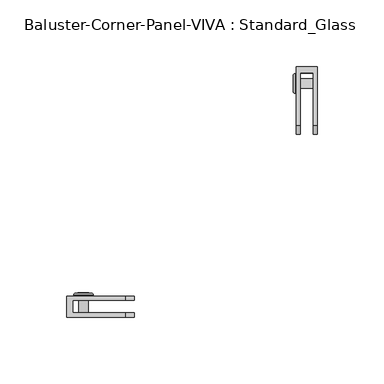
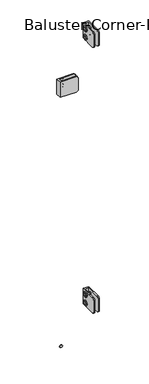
"""IFC4 building model written with IfcOpenShell, lengths in millimetres: railing geometry, Baluster-Corner-Panel-VIVA : Standard_Glass."""

from ifc_helpers import new_model, si_unit, point, frame, origin, place, context, project, spatial, polyline, circle_curve, ellipse_curve, trimmed, outline, extrude, source, transform, mapped, element, save
from ifc_brep_helpers import plane_surface, cylinder_surface, revolved_surface, advanced_brep


def baluster_corner_panel_viva_standard_glass_f68bcb80(model_context):
    return source(origin(), model_context, "Body", "SolidModel", [
        extrude(outline(polyline([(139.71018, 917.178125), (137.6632158, 913.6326791), (133.5692875, 913.6326791), (131.5223234, 917.178125), (133.5692875, 920.7235709), (137.6632158, 920.7235709), (139.71018, 917.178125)])), frame((21.7024185, 0.0, 0.0), z_axis=(1.0, 0.0, 0.0), x_axis=(0.0, 1.0, 0.0)), (0.0, 0.0, 1.0), 1.4969696),
        advanced_brep(
        [(36.7665, 139.1616976, 917.178125), (36.7665, 132.0708058, 917.178125), (24.0665, 132.0708058, 917.178125), (24.0665, 139.1616976, 917.178125), (24.0665, 128.2084626, 917.178125), (24.0665, 143.0240408, 917.178125), (23.199388, 137.2723271, 917.178125), (23.199388, 133.9601763, 917.178125), (36.7665, 133.9601763, 917.178125), (36.7665, 137.2723271, 917.178125), (23.2316551, 143.0240408, 917.178125), (23.2316551, 128.2084626, 917.178125), (21.9503831, 129.4897346, 917.178125), (21.9503831, 141.7427687, 917.178125), (21.9503831, 131.3176561, 917.178125), (21.9503831, 139.9148472, 917.178125), (23.199388, 131.3176561, 917.178125), (23.199388, 139.9148472, 917.178125)],
        [
            (0, 1, circle_curve(frame((36.7665, 135.6162517, 917.178125), z_axis=(-1.0, 0.0, 0.0), x_axis=(0.0, -1.0, 0.0)), 3.5454459)),
            (1, 2),
            (2, 3, circle_curve(frame((24.0665, 135.6162517, 917.178125), z_axis=(1.0, 0.0, 0.0), x_axis=(0.0, -1.0, 0.0)), 3.5454459)),
            (3, 0),
            (1, 0, circle_curve(frame((36.7665, 135.6162517, 917.178125), z_axis=(-1.0, 0.0, 0.0), x_axis=(0.0, -1.0, 0.0)), 3.5454459)),
            (3, 2, circle_curve(frame((24.0665, 135.6162517, 917.178125), z_axis=(1.0, 0.0, 0.0), x_axis=(0.0, -1.0, 0.0)), 3.5454459)),
            (2, 4),
            (4, 5, circle_curve(frame((24.0665, 135.6162517, 917.178125), z_axis=(1.0, 0.0, 0.0), x_axis=(0.0, -1.0, 0.0)), 7.4077891)),
            (5, 3),
            (5, 4, circle_curve(frame((24.0665, 135.6162517, 917.178125), z_axis=(1.0, 0.0, 0.0), x_axis=(0.0, -1.0, 0.0)), 7.4077891)),
            (6, 7, circle_curve(frame((23.199388, 135.6162517, 917.178125), z_axis=(-1.0, 0.0, 0.0), x_axis=(0.0, -1.0, 0.0)), 1.6560754)),
            (7, 8),
            (8, 9, circle_curve(frame((36.7665, 135.6162517, 917.178125), z_axis=(1.0, 0.0, 0.0), x_axis=(0.0, -1.0, 0.0)), 1.6560754)),
            (9, 6),
            (7, 6, circle_curve(frame((23.199388, 135.6162517, 917.178125), z_axis=(-1.0, 0.0, 0.0), x_axis=(0.0, -1.0, 0.0)), 1.6560754)),
            (9, 8, circle_curve(frame((36.7665, 135.6162517, 917.178125), z_axis=(1.0, 0.0, 0.0), x_axis=(0.0, -1.0, 0.0)), 1.6560754)),
            (10, 11, circle_curve(frame((23.2316551, 135.6162517, 917.178125), z_axis=(-1.0, 0.0, 0.0), x_axis=(0.0, -1.0, 0.0)), 7.4077891)),
            (11, 12, circle_curve(frame((23.2316551, 129.4897346, 917.178125), z_axis=(0.0, 0.0, -1.0), x_axis=(0.0, -1.0, 0.0)), 1.281272)),
            (12, 13, circle_curve(frame((21.9503831, 135.6162517, 917.178125), z_axis=(1.0, 0.0, 0.0), x_axis=(0.0, -1.0, 0.0)), 6.1265171)),
            (13, 10, circle_curve(frame((23.2316551, 141.7427687, 917.178125), z_axis=(0.0, 0.0, -1.0), x_axis=(0.0, 1.0, 0.0)), 1.281272)),
            (11, 10, circle_curve(frame((23.2316551, 135.6162517, 917.178125), z_axis=(-1.0, 0.0, 0.0), x_axis=(0.0, -1.0, 0.0)), 7.4077891)),
            (13, 12, circle_curve(frame((21.9503831, 135.6162517, 917.178125), z_axis=(1.0, 0.0, 0.0), x_axis=(0.0, -1.0, 0.0)), 6.1265171)),
            (12, 14),
            (14, 15, circle_curve(frame((21.9503831, 135.6162517, 917.178125), z_axis=(1.0, 0.0, 0.0), x_axis=(0.0, -1.0, 0.0)), 4.2985955)),
            (15, 13),
            (15, 14, circle_curve(frame((21.9503831, 135.6162517, 917.178125), z_axis=(1.0, 0.0, 0.0), x_axis=(0.0, -1.0, 0.0)), 4.2985955)),
            (4, 11),
            (10, 5),
            (8, 1),
            (0, 9),
            (14, 16),
            (16, 17, circle_curve(frame((23.199388, 135.6162517, 917.178125), z_axis=(1.0, 0.0, 0.0), x_axis=(0.0, -1.0, 0.0)), 4.2985955)),
            (17, 15),
            (17, 16, circle_curve(frame((23.199388, 135.6162517, 917.178125), z_axis=(1.0, 0.0, 0.0), x_axis=(0.0, -1.0, 0.0)), 4.2985955)),
            (16, 7),
            (6, 17),
        ],
        [
            cylinder_surface(frame((27.5632331, 135.6162517, 917.178125), z_axis=(1.0, 0.0, 0.0), x_axis=(0.0, -1.0, 0.0)), 3.5454459),
            plane_surface(frame((24.0665, 135.6162517, 917.178125), z_axis=(1.0, 0.0, 0.0), x_axis=(0.0, -1.0, 0.0))),
            revolved_surface(polyline([(36.7665, 133.9601763, 917.178125), (23.199388, 133.9601763, 917.178125)]), (27.5632331, 135.6162517, 917.178125), (1.0, 0.0, 0.0)),
            revolved_surface(trimmed(ellipse_curve(frame((23.2316551, 129.4897346, 917.178125), z_axis=(0.0, 0.0, 1.0), x_axis=(0.0, -1.0, 0.0)), 1.281272, 1.281272), [point((21.9503831, 129.4897346, 917.178125))], [point((23.2316551, 128.2084626, 917.178125))], True, "CARTESIAN"), (27.5632331, 135.6162517, 917.178125), (1.0, 0.0, 0.0)),
            plane_surface(frame((21.9503831, 135.6162517, 917.178125), z_axis=(-1.0, 0.0, 0.0), x_axis=(0.0, -1.0, 0.0))),
            cylinder_surface(frame((27.5632331, 135.6162517, 917.178125), z_axis=(1.0, 0.0, 0.0), x_axis=(0.0, -1.0, 0.0)), 7.4077891),
            plane_surface(frame((36.7665, 135.6162517, 917.178125), z_axis=(1.0, 0.0, 0.0), x_axis=(0.0, -1.0, 0.0))),
            revolved_surface(polyline([(23.199388, 131.3176562, 917.178125), (21.9503831, 131.3176562, 917.178125)]), (27.5632331, 135.6162517, 917.178125), (1.0, 0.0, 0.0)),
            plane_surface(frame((23.199388, 135.6162517, 917.178125), z_axis=(-1.0, 0.0, 0.0), x_axis=(0.0, -1.0, 0.0))),
        ],
        [
            (0, [[1, 2, 3, 4]]),
            (0, [[5, -4, 6, -2]]),
            (1, [[-3, 7, 8, 9]]),
            (1, [[-6, -9, 10, -7]]),
            (2, [[11, 12, 13, 14]]),
            (2, [[15, -14, 16, -12]]),
            (3, [[17, 18, 19, 20]]),
            (3, [[21, -20, 22, -18]]),
            (4, [[-19, 23, 24, 25]]),
            (4, [[-22, -25, 26, -23]]),
            (5, [[-8, 27, -17, 28]]),
            (5, [[-10, -28, -21, -27]]),
            (6, [[-13, 29, -1, 30]]),
            (6, [[-16, -30, -5, -29]]),
            (7, [[-24, 31, 32, 33]]),
            (7, [[-26, -33, 34, -31]]),
            (8, [[-32, 35, -11, 36]]),
            (8, [[-34, -36, -15, -35]]),
        ],
    ),
        advanced_brep(
        [(36.7665, 139.1616976, 892.571875), (36.7665, 132.0708058, 892.571875), (24.0665, 132.0708058, 892.571875), (24.0665, 139.1616976, 892.571875), (24.0665, 128.2084626, 892.571875), (24.0665, 143.0240408, 892.571875), (23.199388, 137.2723271, 892.571875), (23.199388, 133.9601763, 892.571875), (36.7665, 133.9601763, 892.571875), (36.7665, 137.2723271, 892.571875), (23.2316551, 143.0240408, 892.571875), (23.2316551, 128.2084626, 892.571875), (21.9503831, 129.4897346, 892.571875), (21.9503831, 141.7427687, 892.571875), (21.9503831, 131.3176561, 892.571875), (21.9503831, 139.9148472, 892.571875), (23.199388, 131.3176561, 892.571875), (23.199388, 139.9148472, 892.571875)],
        [
            (0, 1, circle_curve(frame((36.7665, 135.6162517, 892.571875), z_axis=(-1.0, 0.0, 0.0), x_axis=(0.0, -1.0, 0.0)), 3.5454459)),
            (1, 2),
            (2, 3, circle_curve(frame((24.0665, 135.6162517, 892.571875), z_axis=(1.0, 0.0, 0.0), x_axis=(0.0, -1.0, 0.0)), 3.5454459)),
            (3, 0),
            (1, 0, circle_curve(frame((36.7665, 135.6162517, 892.571875), z_axis=(-1.0, 0.0, 0.0), x_axis=(0.0, -1.0, 0.0)), 3.5454459)),
            (3, 2, circle_curve(frame((24.0665, 135.6162517, 892.571875), z_axis=(1.0, 0.0, 0.0), x_axis=(0.0, -1.0, 0.0)), 3.5454459)),
            (2, 4),
            (4, 5, circle_curve(frame((24.0665, 135.6162517, 892.571875), z_axis=(1.0, 0.0, 0.0), x_axis=(0.0, -1.0, 0.0)), 7.4077891)),
            (5, 3),
            (5, 4, circle_curve(frame((24.0665, 135.6162517, 892.571875), z_axis=(1.0, 0.0, 0.0), x_axis=(0.0, -1.0, 0.0)), 7.4077891)),
            (6, 7, circle_curve(frame((23.199388, 135.6162517, 892.571875), z_axis=(-1.0, 0.0, 0.0), x_axis=(0.0, -1.0, 0.0)), 1.6560754)),
            (7, 8),
            (8, 9, circle_curve(frame((36.7665, 135.6162517, 892.571875), z_axis=(1.0, 0.0, 0.0), x_axis=(0.0, -1.0, 0.0)), 1.6560754)),
            (9, 6),
            (7, 6, circle_curve(frame((23.199388, 135.6162517, 892.571875), z_axis=(-1.0, 0.0, 0.0), x_axis=(0.0, -1.0, 0.0)), 1.6560754)),
            (9, 8, circle_curve(frame((36.7665, 135.6162517, 892.571875), z_axis=(1.0, 0.0, 0.0), x_axis=(0.0, -1.0, 0.0)), 1.6560754)),
            (10, 11, circle_curve(frame((23.2316551, 135.6162517, 892.571875), z_axis=(-1.0, 0.0, 0.0), x_axis=(0.0, -1.0, 0.0)), 7.4077891)),
            (11, 12, circle_curve(frame((23.2316551, 129.4897346, 892.571875), z_axis=(0.0, 0.0, -1.0), x_axis=(0.0, -1.0, 0.0)), 1.281272)),
            (12, 13, circle_curve(frame((21.9503831, 135.6162517, 892.571875), z_axis=(1.0, 0.0, 0.0), x_axis=(0.0, -1.0, 0.0)), 6.1265171)),
            (13, 10, circle_curve(frame((23.2316551, 141.7427687, 892.571875), z_axis=(0.0, 0.0, -1.0), x_axis=(0.0, 1.0, 0.0)), 1.281272)),
            (11, 10, circle_curve(frame((23.2316551, 135.6162517, 892.571875), z_axis=(-1.0, 0.0, 0.0), x_axis=(0.0, -1.0, 0.0)), 7.4077891)),
            (13, 12, circle_curve(frame((21.9503831, 135.6162517, 892.571875), z_axis=(1.0, 0.0, 0.0), x_axis=(0.0, -1.0, 0.0)), 6.1265171)),
            (12, 14),
            (14, 15, circle_curve(frame((21.9503831, 135.6162517, 892.571875), z_axis=(1.0, 0.0, 0.0), x_axis=(0.0, -1.0, 0.0)), 4.2985955)),
            (15, 13),
            (15, 14, circle_curve(frame((21.9503831, 135.6162517, 892.571875), z_axis=(1.0, 0.0, 0.0), x_axis=(0.0, -1.0, 0.0)), 4.2985955)),
            (8, 1),
            (0, 9),
            (4, 11),
            (10, 5),
            (14, 16),
            (16, 17, circle_curve(frame((23.199388, 135.6162517, 892.571875), z_axis=(1.0, 0.0, 0.0), x_axis=(0.0, -1.0, 0.0)), 4.2985955)),
            (17, 15),
            (17, 16, circle_curve(frame((23.199388, 135.6162517, 892.571875), z_axis=(1.0, 0.0, 0.0), x_axis=(0.0, -1.0, 0.0)), 4.2985955)),
            (16, 7),
            (6, 17),
        ],
        [
            cylinder_surface(frame((27.5632331, 135.6162517, 892.571875), z_axis=(1.0, 0.0, 0.0), x_axis=(0.0, -1.0, 0.0)), 3.5454459),
            plane_surface(frame((24.0665, 135.6162517, 892.571875), z_axis=(1.0, 0.0, 0.0), x_axis=(0.0, -1.0, 0.0))),
            revolved_surface(polyline([(36.7665, 133.9601763, 892.571875), (23.199388, 133.9601763, 892.571875)]), (27.5632331, 135.6162517, 892.571875), (1.0, 0.0, 0.0)),
            revolved_surface(trimmed(ellipse_curve(frame((23.2316551, 129.4897346, 892.571875), z_axis=(0.0, 0.0, 1.0), x_axis=(0.0, -1.0, 0.0)), 1.281272, 1.281272), [point((21.9503831, 129.4897346, 892.571875))], [point((23.2316551, 128.2084626, 892.571875))], True, "CARTESIAN"), (27.5632331, 135.6162517, 892.571875), (1.0, 0.0, 0.0)),
            plane_surface(frame((21.9503831, 135.6162517, 892.571875), z_axis=(-1.0, 0.0, 0.0), x_axis=(0.0, -1.0, 0.0))),
            plane_surface(frame((36.7665, 135.6162517, 892.571875), z_axis=(1.0, 0.0, 0.0), x_axis=(0.0, -1.0, 0.0))),
            cylinder_surface(frame((27.5632331, 135.6162517, 892.571875), z_axis=(1.0, 0.0, 0.0), x_axis=(0.0, -1.0, 0.0)), 7.4077891),
            revolved_surface(polyline([(23.199388, 131.3176562, 892.571875), (21.9503831, 131.3176562, 892.571875)]), (27.5632331, 135.6162517, 892.571875), (1.0, 0.0, 0.0)),
            plane_surface(frame((23.199388, 135.6162517, 892.571875), z_axis=(-1.0, 0.0, 0.0), x_axis=(0.0, -1.0, 0.0))),
        ],
        [
            (0, [[1, 2, 3, 4]]),
            (0, [[5, -4, 6, -2]]),
            (1, [[-3, 7, 8, 9]]),
            (1, [[-6, -9, 10, -7]]),
            (2, [[11, 12, 13, 14]]),
            (2, [[15, -14, 16, -12]]),
            (3, [[17, 18, 19, 20]]),
            (3, [[21, -20, 22, -18]]),
            (4, [[-19, 23, 24, 25]]),
            (4, [[-22, -25, 26, -23]]),
            (5, [[-13, 27, -1, 28]]),
            (5, [[-16, -28, -5, -27]]),
            (6, [[-8, 29, -17, 30]]),
            (6, [[-10, -30, -21, -29]]),
            (7, [[-24, 31, 32, 33]]),
            (7, [[-26, -33, 34, -31]]),
            (8, [[-32, 35, -11, 36]]),
            (8, [[-34, -36, -15, -35]]),
        ],
    ),
        extrude(outline(polyline([(139.71018, 892.571875), (137.6632158, 889.0264291), (133.5692875, 889.0264291), (131.5223234, 892.571875), (133.5692875, 896.1173209), (137.6632158, 896.1173209), (139.71018, 892.571875)])), frame((21.7024185, 0.0, 0.0), z_axis=(1.0, 0.0, 0.0), x_axis=(0.0, 1.0, 0.0)), (0.0, 0.0, 1.0), 1.4969696),
        advanced_brep(
        [(24.0665, 148.2495965, 927.1), (24.0665, 148.2495965, 882.65), (24.0665, 103.7995965, 882.65), (24.0665, 97.4495965, 889.0), (24.0665, 97.4495965, 920.75), (24.0665, 103.7995965, 927.1), (39.9415, 148.2495965, 927.1), (39.9415, 103.7995965, 927.1), (39.9415, 97.4495965, 920.75), (39.9415, 97.4495965, 889.0), (39.9415, 103.7995965, 882.65), (39.9415, 148.2495965, 882.65), (36.7665, 103.7995965, 882.65), (36.7665, 143.5315161, 882.65), (27.2415, 143.5315161, 882.65), (27.2415, 103.7995965, 882.65), (36.7665, 143.5315161, 927.1), (27.2415, 143.5315161, 927.1), (27.2415, 103.7995965, 927.1), (27.2415, 97.4495965, 920.75), (27.2415, 97.4495965, 889.0), (36.7665, 97.4495965, 889.0), (36.7665, 97.4495965, 920.75), (36.7665, 103.7995965, 927.1)],
        [
            (0, 1),
            (1, 2),
            (2, 3, circle_curve(frame((24.0665, 103.7995965, 889.0), z_axis=(-1.0, 0.0, 0.0), x_axis=(0.0, -1.0, 0.0)), 6.35)),
            (3, 4),
            (4, 5, circle_curve(frame((24.0665, 103.7995965, 920.75), z_axis=(-1.0, 0.0, 0.0), x_axis=(0.0, -1.0, 0.0)), 6.35)),
            (5, 0),
            (6, 7),
            (7, 8, circle_curve(frame((39.9415, 103.7995965, 920.75), z_axis=(1.0, 0.0, 0.0), x_axis=(0.0, -1.0, 0.0)), 6.35)),
            (8, 9),
            (9, 10, circle_curve(frame((39.9415, 103.7995965, 889.0), z_axis=(1.0, 0.0, 0.0), x_axis=(0.0, -1.0, 0.0)), 6.35)),
            (10, 11),
            (11, 6),
            (0, 6),
            (11, 1),
            (10, 12),
            (12, 13),
            (13, 14),
            (14, 15),
            (15, 2),
            (13, 16),
            (16, 17),
            (17, 14),
            (17, 18),
            (18, 19, circle_curve(frame((27.2415, 103.7995965, 920.75), z_axis=(1.0, 0.0, 0.0), x_axis=(0.0, -1.0, 0.0)), 6.35)),
            (19, 20),
            (20, 15, circle_curve(frame((27.2415, 103.7995965, 889.0), z_axis=(1.0, 0.0, 0.0), x_axis=(0.0, -1.0, 0.0)), 6.35)),
            (12, 21, circle_curve(frame((36.7665, 103.7995965, 889.0), z_axis=(-1.0, 0.0, 0.0), x_axis=(0.0, -1.0, 0.0)), 6.35)),
            (21, 22),
            (22, 23, circle_curve(frame((36.7665, 103.7995965, 920.75), z_axis=(-1.0, 0.0, 0.0), x_axis=(0.0, -1.0, 0.0)), 6.35)),
            (23, 16),
            (20, 3),
            (9, 21),
            (19, 4),
            (8, 22),
            (18, 5),
            (7, 23),
        ],
        [
            plane_surface(frame((24.0665, 148.2495965, 882.65), z_axis=(-1.0, 0.0, 0.0), x_axis=(0.0, 0.0, -1.0))),
            plane_surface(frame((39.9415, 148.2495965, 882.65), z_axis=(1.0, 0.0, 0.0), x_axis=(0.0, 0.0, 1.0))),
            plane_surface(frame((24.0665, 148.2495965, 927.1), z_axis=(0.0, 1.0, 0.0), x_axis=(1.0, 0.0, 0.0))),
            plane_surface(frame((24.0665, 148.2495965, 882.65), z_axis=(0.0, 0.0, -1.0), x_axis=(1.0, 0.0, 0.0))),
            plane_surface(frame((36.7665, 143.5315161, 939.8), z_axis=(0.0, -1.0, 0.0), x_axis=(0.0, 0.0, -1.0))),
            plane_surface(frame((27.2415, 143.5315161, 939.8), z_axis=(1.0, 0.0, 0.0), x_axis=(0.0, 0.0, -1.0))),
            plane_surface(frame((36.7665, 84.7495965, 939.8), z_axis=(-1.0, 0.0, 0.0), x_axis=(0.0, 0.0, -1.0))),
            cylinder_surface(frame((39.9415, 103.7995965, 889.0), z_axis=(-1.0, 0.0, 0.0), x_axis=(0.0, -1.0, 0.0)), 6.35),
            plane_surface(frame((24.0665, 97.4495965, 889.0), z_axis=(0.0, -1.0, 0.0), x_axis=(1.0, 0.0, 0.0))),
            cylinder_surface(frame((39.9415, 103.7995965, 920.75), z_axis=(-1.0, 0.0, 0.0), x_axis=(0.0, -1.0, 0.0)), 6.35),
            plane_surface(frame((24.0665, 103.7995965, 927.1), z_axis=(0.0, 0.0, 1.0), x_axis=(1.0, 0.0, 0.0))),
        ],
        [
            (0, [[1, 2, 3, 4, 5, 6]]),
            (1, [[7, 8, 9, 10, 11, 12]]),
            (2, [[-1, 13, -12, 14]]),
            (3, [[-2, -14, -11, 15, 16, 17, 18, 19]]),
            (4, [[20, 21, 22, -17]]),
            (5, [[-22, 23, 24, 25, 26, -18]]),
            (6, [[-20, -16, 27, 28, 29, 30]]),
            (7, [[-3, -19, -26, 31]]),
            (7, [[-10, 32, -27, -15]]),
            (8, [[-4, -31, -25, 33]]),
            (8, [[-9, 34, -28, -32]]),
            (9, [[-5, -33, -24, 35]]),
            (9, [[-8, 36, -29, -34]]),
            (10, [[-6, -35, -23, -21, -30, -36, -7, -13]]),
        ],
    ),
        extrude(outline(polyline([(139.71018, 138.7358896), (137.6632158, 135.1904437), (133.5692875, 135.1904437), (131.5223234, 138.7358896), (133.5692875, 142.2813355), (137.6632158, 142.2813355), (139.71018, 138.7358896)])), frame((21.7024185, 0.0, 0.0), z_axis=(1.0, 0.0, 0.0), x_axis=(0.0, 1.0, 0.0)), (0.0, 0.0, 1.0), 1.4969696),
        advanced_brep(
        [(36.7665, 139.1616976, 138.7358896), (36.7665, 132.0708058, 138.7358896), (24.0665, 132.0708058, 138.7358896), (24.0665, 139.1616976, 138.7358896), (24.0665, 128.2084626, 138.7358896), (24.0665, 143.0240408, 138.7358896), (23.199388, 137.2723271, 138.7358896), (23.199388, 133.9601763, 138.7358896), (36.7665, 133.9601763, 138.7358896), (36.7665, 137.2723271, 138.7358896), (23.2316551, 143.0240408, 138.7358896), (23.2316551, 128.2084626, 138.7358896), (21.9503831, 129.4897346, 138.7358896), (21.9503831, 141.7427687, 138.7358896), (21.9503831, 131.3176561, 138.7358896), (21.9503831, 139.9148472, 138.7358896), (23.199388, 131.3176561, 138.7358896), (23.199388, 139.9148472, 138.7358896)],
        [
            (0, 1, circle_curve(frame((36.7665, 135.6162517, 138.7358896), z_axis=(-1.0, 0.0, 0.0), x_axis=(0.0, -1.0, 0.0)), 3.5454459)),
            (1, 2),
            (2, 3, circle_curve(frame((24.0665, 135.6162517, 138.7358896), z_axis=(1.0, 0.0, 0.0), x_axis=(0.0, -1.0, 0.0)), 3.5454459)),
            (3, 0),
            (1, 0, circle_curve(frame((36.7665, 135.6162517, 138.7358896), z_axis=(-1.0, 0.0, 0.0), x_axis=(0.0, -1.0, 0.0)), 3.5454459)),
            (3, 2, circle_curve(frame((24.0665, 135.6162517, 138.7358896), z_axis=(1.0, 0.0, 0.0), x_axis=(0.0, -1.0, 0.0)), 3.5454459)),
            (2, 4),
            (4, 5, circle_curve(frame((24.0665, 135.6162517, 138.7358896), z_axis=(1.0, 0.0, 0.0), x_axis=(0.0, -1.0, 0.0)), 7.4077891)),
            (5, 3),
            (5, 4, circle_curve(frame((24.0665, 135.6162517, 138.7358896), z_axis=(1.0, 0.0, 0.0), x_axis=(0.0, -1.0, 0.0)), 7.4077891)),
            (6, 7, circle_curve(frame((23.199388, 135.6162517, 138.7358896), z_axis=(-1.0, 0.0, 0.0), x_axis=(0.0, -1.0, 0.0)), 1.6560754)),
            (7, 8),
            (8, 9, circle_curve(frame((36.7665, 135.6162517, 138.7358896), z_axis=(1.0, 0.0, 0.0), x_axis=(0.0, -1.0, 0.0)), 1.6560754)),
            (9, 6),
            (7, 6, circle_curve(frame((23.199388, 135.6162517, 138.7358896), z_axis=(-1.0, 0.0, 0.0), x_axis=(0.0, -1.0, 0.0)), 1.6560754)),
            (9, 8, circle_curve(frame((36.7665, 135.6162517, 138.7358896), z_axis=(1.0, 0.0, 0.0), x_axis=(0.0, -1.0, 0.0)), 1.6560754)),
            (10, 11, circle_curve(frame((23.2316551, 135.6162517, 138.7358896), z_axis=(-1.0, 0.0, 0.0), x_axis=(0.0, -1.0, 0.0)), 7.4077891)),
            (11, 12, circle_curve(frame((23.2316551, 129.4897346, 138.7358896), z_axis=(0.0, 0.0, -1.0), x_axis=(0.0, -1.0, 0.0)), 1.281272)),
            (12, 13, circle_curve(frame((21.9503831, 135.6162517, 138.7358896), z_axis=(1.0, 0.0, 0.0), x_axis=(0.0, -1.0, 0.0)), 6.1265171)),
            (13, 10, circle_curve(frame((23.2316551, 141.7427687, 138.7358896), z_axis=(0.0, 0.0, -1.0), x_axis=(0.0, 1.0, 0.0)), 1.281272)),
            (11, 10, circle_curve(frame((23.2316551, 135.6162517, 138.7358896), z_axis=(-1.0, 0.0, 0.0), x_axis=(0.0, -1.0, 0.0)), 7.4077891)),
            (13, 12, circle_curve(frame((21.9503831, 135.6162517, 138.7358896), z_axis=(1.0, 0.0, 0.0), x_axis=(0.0, -1.0, 0.0)), 6.1265171)),
            (12, 14),
            (14, 15, circle_curve(frame((21.9503831, 135.6162517, 138.7358896), z_axis=(1.0, 0.0, 0.0), x_axis=(0.0, -1.0, 0.0)), 4.2985955)),
            (15, 13),
            (15, 14, circle_curve(frame((21.9503831, 135.6162517, 138.7358896), z_axis=(1.0, 0.0, 0.0), x_axis=(0.0, -1.0, 0.0)), 4.2985955)),
            (4, 11),
            (10, 5),
            (8, 1),
            (0, 9),
            (14, 16),
            (16, 17, circle_curve(frame((23.199388, 135.6162517, 138.7358896), z_axis=(1.0, 0.0, 0.0), x_axis=(0.0, -1.0, 0.0)), 4.2985955)),
            (17, 15),
            (17, 16, circle_curve(frame((23.199388, 135.6162517, 138.7358896), z_axis=(1.0, 0.0, 0.0), x_axis=(0.0, -1.0, 0.0)), 4.2985955)),
            (16, 7),
            (6, 17),
        ],
        [
            cylinder_surface(frame((27.5632331, 135.6162517, 138.7358896), z_axis=(1.0, 0.0, 0.0), x_axis=(0.0, -1.0, 0.0)), 3.5454459),
            plane_surface(frame((24.0665, 135.6162517, 138.7358896), z_axis=(1.0, 0.0, 0.0), x_axis=(0.0, -1.0, 0.0))),
            revolved_surface(polyline([(36.7665, 133.9601763, 138.7358896), (23.199388, 133.9601763, 138.7358896)]), (27.5632331, 135.6162517, 138.7358896), (1.0, 0.0, 0.0)),
            revolved_surface(trimmed(ellipse_curve(frame((23.2316551, 129.4897346, 138.7358896), z_axis=(0.0, 0.0, 1.0), x_axis=(0.0, -1.0, 0.0)), 1.281272, 1.281272), [point((21.9503831, 129.4897346, 138.7358896))], [point((23.2316551, 128.2084626, 138.7358896))], True, "CARTESIAN"), (27.5632331, 135.6162517, 138.7358896), (1.0, 0.0, 0.0)),
            plane_surface(frame((21.9503831, 135.6162517, 138.7358896), z_axis=(-1.0, 0.0, 0.0), x_axis=(0.0, -1.0, 0.0))),
            cylinder_surface(frame((27.5632331, 135.6162517, 138.7358896), z_axis=(1.0, 0.0, 0.0), x_axis=(0.0, -1.0, 0.0)), 7.4077891),
            plane_surface(frame((36.7665, 135.6162517, 138.7358896), z_axis=(1.0, 0.0, 0.0), x_axis=(0.0, -1.0, 0.0))),
            revolved_surface(polyline([(23.199388, 131.3176562, 138.7358896), (21.9503831, 131.3176562, 138.7358896)]), (27.5632331, 135.6162517, 138.7358896), (1.0, 0.0, 0.0)),
            plane_surface(frame((23.199388, 135.6162517, 138.7358896), z_axis=(-1.0, 0.0, 0.0), x_axis=(0.0, -1.0, 0.0))),
        ],
        [
            (0, [[1, 2, 3, 4]]),
            (0, [[5, -4, 6, -2]]),
            (1, [[-3, 7, 8, 9]]),
            (1, [[-6, -9, 10, -7]]),
            (2, [[11, 12, 13, 14]]),
            (2, [[15, -14, 16, -12]]),
            (3, [[17, 18, 19, 20]]),
            (3, [[21, -20, 22, -18]]),
            (4, [[-19, 23, 24, 25]]),
            (4, [[-22, -25, 26, -23]]),
            (5, [[-8, 27, -17, 28]]),
            (5, [[-10, -28, -21, -27]]),
            (6, [[-13, 29, -1, 30]]),
            (6, [[-16, -30, -5, -29]]),
            (7, [[-24, 31, 32, 33]]),
            (7, [[-26, -33, 34, -31]]),
            (8, [[-32, 35, -11, 36]]),
            (8, [[-34, -36, -15, -35]]),
        ],
    ),
        advanced_brep(
        [(36.7665, 139.1616976, 114.1296396), (36.7665, 132.0708058, 114.1296396), (24.0665, 132.0708058, 114.1296396), (24.0665, 139.1616976, 114.1296396), (24.0665, 128.2084626, 114.1296396), (24.0665, 143.0240408, 114.1296396), (23.199388, 137.2723271, 114.1296396), (23.199388, 133.9601763, 114.1296396), (36.7665, 133.9601763, 114.1296396), (36.7665, 137.2723271, 114.1296396), (23.2316551, 143.0240408, 114.1296396), (23.2316551, 128.2084626, 114.1296396), (21.9503831, 129.4897346, 114.1296396), (21.9503831, 141.7427687, 114.1296396), (21.9503831, 131.3176561, 114.1296396), (21.9503831, 139.9148472, 114.1296396), (23.199388, 131.3176561, 114.1296396), (23.199388, 139.9148472, 114.1296396)],
        [
            (0, 1, circle_curve(frame((36.7665, 135.6162517, 114.1296396), z_axis=(-1.0, 0.0, 0.0), x_axis=(0.0, -1.0, 0.0)), 3.5454459)),
            (1, 2),
            (2, 3, circle_curve(frame((24.0665, 135.6162517, 114.1296396), z_axis=(1.0, 0.0, 0.0), x_axis=(0.0, -1.0, 0.0)), 3.5454459)),
            (3, 0),
            (1, 0, circle_curve(frame((36.7665, 135.6162517, 114.1296396), z_axis=(-1.0, 0.0, 0.0), x_axis=(0.0, -1.0, 0.0)), 3.5454459)),
            (3, 2, circle_curve(frame((24.0665, 135.6162517, 114.1296396), z_axis=(1.0, 0.0, 0.0), x_axis=(0.0, -1.0, 0.0)), 3.5454459)),
            (2, 4),
            (4, 5, circle_curve(frame((24.0665, 135.6162517, 114.1296396), z_axis=(1.0, 0.0, 0.0), x_axis=(0.0, -1.0, 0.0)), 7.4077891)),
            (5, 3),
            (5, 4, circle_curve(frame((24.0665, 135.6162517, 114.1296396), z_axis=(1.0, 0.0, 0.0), x_axis=(0.0, -1.0, 0.0)), 7.4077891)),
            (6, 7, circle_curve(frame((23.199388, 135.6162517, 114.1296396), z_axis=(-1.0, 0.0, 0.0), x_axis=(0.0, -1.0, 0.0)), 1.6560754)),
            (7, 8),
            (8, 9, circle_curve(frame((36.7665, 135.6162517, 114.1296396), z_axis=(1.0, 0.0, 0.0), x_axis=(0.0, -1.0, 0.0)), 1.6560754)),
            (9, 6),
            (7, 6, circle_curve(frame((23.199388, 135.6162517, 114.1296396), z_axis=(-1.0, 0.0, 0.0), x_axis=(0.0, -1.0, 0.0)), 1.6560754)),
            (9, 8, circle_curve(frame((36.7665, 135.6162517, 114.1296396), z_axis=(1.0, 0.0, 0.0), x_axis=(0.0, -1.0, 0.0)), 1.6560754)),
            (10, 11, circle_curve(frame((23.2316551, 135.6162517, 114.1296396), z_axis=(-1.0, 0.0, 0.0), x_axis=(0.0, -1.0, 0.0)), 7.4077891)),
            (11, 12, circle_curve(frame((23.2316551, 129.4897346, 114.1296396), z_axis=(0.0, 0.0, -1.0), x_axis=(0.0, -1.0, 0.0)), 1.281272)),
            (12, 13, circle_curve(frame((21.9503831, 135.6162517, 114.1296396), z_axis=(1.0, 0.0, 0.0), x_axis=(0.0, -1.0, 0.0)), 6.1265171)),
            (13, 10, circle_curve(frame((23.2316551, 141.7427687, 114.1296396), z_axis=(0.0, 0.0, -1.0), x_axis=(0.0, 1.0, 0.0)), 1.281272)),
            (11, 10, circle_curve(frame((23.2316551, 135.6162517, 114.1296396), z_axis=(-1.0, 0.0, 0.0), x_axis=(0.0, -1.0, 0.0)), 7.4077891)),
            (13, 12, circle_curve(frame((21.9503831, 135.6162517, 114.1296396), z_axis=(1.0, 0.0, 0.0), x_axis=(0.0, -1.0, 0.0)), 6.1265171)),
            (12, 14),
            (14, 15, circle_curve(frame((21.9503831, 135.6162517, 114.1296396), z_axis=(1.0, 0.0, 0.0), x_axis=(0.0, -1.0, 0.0)), 4.2985955)),
            (15, 13),
            (15, 14, circle_curve(frame((21.9503831, 135.6162517, 114.1296396), z_axis=(1.0, 0.0, 0.0), x_axis=(0.0, -1.0, 0.0)), 4.2985955)),
            (8, 1),
            (0, 9),
            (4, 11),
            (10, 5),
            (14, 16),
            (16, 17, circle_curve(frame((23.199388, 135.6162517, 114.1296396), z_axis=(1.0, 0.0, 0.0), x_axis=(0.0, -1.0, 0.0)), 4.2985955)),
            (17, 15),
            (17, 16, circle_curve(frame((23.199388, 135.6162517, 114.1296396), z_axis=(1.0, 0.0, 0.0), x_axis=(0.0, -1.0, 0.0)), 4.2985955)),
            (16, 7),
            (6, 17),
        ],
        [
            cylinder_surface(frame((27.5632331, 135.6162517, 114.1296396), z_axis=(1.0, 0.0, 0.0), x_axis=(0.0, -1.0, 0.0)), 3.5454459),
            plane_surface(frame((24.0665, 135.6162517, 114.1296396), z_axis=(1.0, 0.0, 0.0), x_axis=(0.0, -1.0, 0.0))),
            revolved_surface(polyline([(36.7665, 133.9601763, 114.1296396), (23.199388, 133.9601763, 114.1296396)]), (27.5632331, 135.6162517, 114.1296396), (1.0, 0.0, 0.0)),
            revolved_surface(trimmed(ellipse_curve(frame((23.2316551, 129.4897346, 114.1296396), z_axis=(0.0, 0.0, 1.0), x_axis=(0.0, -1.0, 0.0)), 1.281272, 1.281272), [point((21.9503831, 129.4897346, 114.1296396))], [point((23.2316551, 128.2084626, 114.1296396))], True, "CARTESIAN"), (27.5632331, 135.6162517, 114.1296396), (1.0, 0.0, 0.0)),
            plane_surface(frame((21.9503831, 135.6162517, 114.1296396), z_axis=(-1.0, 0.0, 0.0), x_axis=(0.0, -1.0, 0.0))),
            plane_surface(frame((36.7665, 135.6162517, 114.1296396), z_axis=(1.0, 0.0, 0.0), x_axis=(0.0, -1.0, 0.0))),
            cylinder_surface(frame((27.5632331, 135.6162517, 114.1296396), z_axis=(1.0, 0.0, 0.0), x_axis=(0.0, -1.0, 0.0)), 7.4077891),
            revolved_surface(polyline([(23.199388, 131.3176562, 114.1296396), (21.9503831, 131.3176562, 114.1296396)]), (27.5632331, 135.6162517, 114.1296396), (1.0, 0.0, 0.0)),
            plane_surface(frame((23.199388, 135.6162517, 114.1296396), z_axis=(-1.0, 0.0, 0.0), x_axis=(0.0, -1.0, 0.0))),
        ],
        [
            (0, [[1, 2, 3, 4]]),
            (0, [[5, -4, 6, -2]]),
            (1, [[-3, 7, 8, 9]]),
            (1, [[-6, -9, 10, -7]]),
            (2, [[11, 12, 13, 14]]),
            (2, [[15, -14, 16, -12]]),
            (3, [[17, 18, 19, 20]]),
            (3, [[21, -20, 22, -18]]),
            (4, [[-19, 23, 24, 25]]),
            (4, [[-22, -25, 26, -23]]),
            (5, [[-13, 27, -1, 28]]),
            (5, [[-16, -28, -5, -27]]),
            (6, [[-8, 29, -17, 30]]),
            (6, [[-10, -30, -21, -29]]),
            (7, [[-24, 31, 32, 33]]),
            (7, [[-26, -33, 34, -31]]),
            (8, [[-32, 35, -11, 36]]),
            (8, [[-34, -36, -15, -35]]),
        ],
    ),
        extrude(outline(polyline([(139.71018, 114.1296396), (137.6632158, 110.5841937), (133.5692875, 110.5841937), (131.5223234, 114.1296396), (133.5692875, 117.6750855), (137.6632158, 117.6750855), (139.71018, 114.1296396)])), frame((21.7024185, 0.0, 0.0), z_axis=(1.0, 0.0, 0.0), x_axis=(0.0, 1.0, 0.0)), (0.0, 0.0, 1.0), 1.4969696),
        advanced_brep(
        [(24.0665, 148.2495965, 148.6577646), (24.0665, 148.2495965, 104.2077646), (24.0665, 103.7995965, 104.2077646), (24.0665, 97.4495965, 110.5577646), (24.0665, 97.4495965, 142.3077646), (24.0665, 103.7995965, 148.6577646), (39.9415, 148.2495965, 148.6577646), (39.9415, 103.7995965, 148.6577646), (39.9415, 97.4495965, 142.3077646), (39.9415, 97.4495965, 110.5577646), (39.9415, 103.7995965, 104.2077646), (39.9415, 148.2495965, 104.2077646), (36.7665, 103.7995965, 104.2077646), (36.7665, 143.5315161, 104.2077646), (27.2415, 143.5315161, 104.2077646), (27.2415, 103.7995965, 104.2077646), (36.7665, 143.5315161, 148.6577646), (27.2415, 143.5315161, 148.6577646), (27.2415, 103.7995965, 148.6577646), (27.2415, 97.4495965, 142.3077646), (27.2415, 97.4495965, 110.5577646), (36.7665, 97.4495965, 110.5577646), (36.7665, 97.4495965, 142.3077646), (36.7665, 103.7995965, 148.6577646)],
        [
            (0, 1),
            (1, 2),
            (2, 3, circle_curve(frame((24.0665, 103.7995965, 110.5577646), z_axis=(-1.0, 0.0, 0.0), x_axis=(0.0, -1.0, 0.0)), 6.35)),
            (3, 4),
            (4, 5, circle_curve(frame((24.0665, 103.7995965, 142.3077646), z_axis=(-1.0, 0.0, 0.0), x_axis=(0.0, -1.0, 0.0)), 6.35)),
            (5, 0),
            (6, 7),
            (7, 8, circle_curve(frame((39.9415, 103.7995965, 142.3077646), z_axis=(1.0, 0.0, 0.0), x_axis=(0.0, -1.0, 0.0)), 6.35)),
            (8, 9),
            (9, 10, circle_curve(frame((39.9415, 103.7995965, 110.5577646), z_axis=(1.0, 0.0, 0.0), x_axis=(0.0, -1.0, 0.0)), 6.35)),
            (10, 11),
            (11, 6),
            (0, 6),
            (11, 1),
            (10, 12),
            (12, 13),
            (13, 14),
            (14, 15),
            (15, 2),
            (13, 16),
            (16, 17),
            (17, 14),
            (17, 18),
            (18, 19, circle_curve(frame((27.2415, 103.7995965, 142.3077646), z_axis=(1.0, 0.0, 0.0), x_axis=(0.0, -1.0, 0.0)), 6.35)),
            (19, 20),
            (20, 15, circle_curve(frame((27.2415, 103.7995965, 110.5577646), z_axis=(1.0, 0.0, 0.0), x_axis=(0.0, -1.0, 0.0)), 6.35)),
            (12, 21, circle_curve(frame((36.7665, 103.7995965, 110.5577646), z_axis=(-1.0, 0.0, 0.0), x_axis=(0.0, -1.0, 0.0)), 6.35)),
            (21, 22),
            (22, 23, circle_curve(frame((36.7665, 103.7995965, 142.3077646), z_axis=(-1.0, 0.0, 0.0), x_axis=(0.0, -1.0, 0.0)), 6.35)),
            (23, 16),
            (20, 3),
            (9, 21),
            (19, 4),
            (8, 22),
            (18, 5),
            (7, 23),
        ],
        [
            plane_surface(frame((24.0665, 148.2495965, 104.2077646), z_axis=(-1.0, 0.0, 0.0), x_axis=(0.0, 0.0, -1.0))),
            plane_surface(frame((39.9415, 148.2495965, 104.2077646), z_axis=(1.0, 0.0, 0.0), x_axis=(0.0, 0.0, 1.0))),
            plane_surface(frame((24.0665, 148.2495965, 148.6577646), z_axis=(0.0, 1.0, 0.0), x_axis=(1.0, 0.0, 0.0))),
            plane_surface(frame((24.0665, 148.2495965, 104.2077646), z_axis=(0.0, 0.0, -1.0), x_axis=(1.0, 0.0, 0.0))),
            plane_surface(frame((36.7665, 143.5315161, 161.3577646), z_axis=(0.0, -1.0, 0.0), x_axis=(0.0, 0.0, -1.0))),
            plane_surface(frame((27.2415, 143.5315161, 161.3577646), z_axis=(1.0, 0.0, 0.0), x_axis=(0.0, 0.0, -1.0))),
            plane_surface(frame((36.7665, 84.7495965, 161.3577646), z_axis=(-1.0, 0.0, 0.0), x_axis=(0.0, 0.0, -1.0))),
            cylinder_surface(frame((39.9415, 103.7995965, 110.5577646), z_axis=(-1.0, 0.0, 0.0), x_axis=(0.0, -1.0, 0.0)), 6.35),
            plane_surface(frame((24.0665, 97.4495965, 110.5577646), z_axis=(0.0, -1.0, 0.0), x_axis=(1.0, 0.0, 0.0))),
            cylinder_surface(frame((39.9415, 103.7995965, 142.3077646), z_axis=(-1.0, 0.0, 0.0), x_axis=(0.0, -1.0, 0.0)), 6.35),
            plane_surface(frame((24.0665, 103.7995965, 148.6577646), z_axis=(0.0, 0.0, 1.0), x_axis=(1.0, 0.0, 0.0))),
        ],
        [
            (0, [[1, 2, 3, 4, 5, 6]]),
            (1, [[7, 8, 9, 10, 11, 12]]),
            (2, [[-1, 13, -12, 14]]),
            (3, [[-2, -14, -11, 15, 16, 17, 18, 19]]),
            (4, [[20, 21, 22, -17]]),
            (5, [[-22, 23, 24, 25, 26, -18]]),
            (6, [[-20, -16, 27, 28, 29, 30]]),
            (7, [[-3, -19, -26, 31]]),
            (7, [[-10, 32, -27, -15]]),
            (8, [[-4, -31, -25, 33]]),
            (8, [[-9, 34, -28, -32]]),
            (9, [[-5, -33, -24, 35]]),
            (9, [[-8, 36, -29, -34]]),
            (10, [[-6, -35, -23, -21, -30, -36, -7, -13]]),
        ],
    ),
        extrude(outline(polyline([(917.178125, -139.8277531), (913.6326791, -137.7807889), (913.6326791, -133.6868606), (917.178125, -131.6398965), (920.7235709, -133.6868606), (920.7235709, -137.7807889), (917.178125, -139.8277531)])), frame((0.0, -23.199388, 0.0), z_axis=(0.0, 1.0, 0.0), x_axis=(0.0, 0.0, 1.0)), (0.0, 0.0, 1.0), 1.4969696),
        advanced_brep(
        [(-139.2792707, -36.7665, 917.178125), (-139.2792707, -24.0665, 917.178125), (-132.1883788, -24.0665, 917.178125), (-132.1883788, -36.7665, 917.178125), (-143.1416138, -24.0665, 917.178125), (-128.3260357, -24.0665, 917.178125), (-137.3899001, -23.199388, 917.178125), (-137.3899001, -36.7665, 917.178125), (-134.0777494, -36.7665, 917.178125), (-134.0777494, -23.199388, 917.178125), (-143.1416138, -23.2316551, 917.178125), (-141.8603418, -21.9503831, 917.178125), (-129.6073077, -21.9503831, 917.178125), (-128.3260357, -23.2316551, 917.178125), (-140.0324203, -21.9503831, 917.178125), (-131.4352292, -21.9503831, 917.178125), (-140.0324203, -23.199388, 917.178125), (-131.4352292, -23.199388, 917.178125)],
        [
            (0, 1),
            (1, 2, circle_curve(frame((-135.7338248, -24.0665, 917.178125), z_axis=(0.0, -1.0, 0.0), x_axis=(1.0, 0.0, 0.0)), 3.5454459)),
            (2, 3),
            (3, 0, circle_curve(frame((-135.7338248, -36.7665, 917.178125), z_axis=(0.0, 1.0, 0.0), x_axis=(1.0, 0.0, 0.0)), 3.5454459)),
            (2, 1, circle_curve(frame((-135.7338248, -24.0665, 917.178125), z_axis=(0.0, -1.0, 0.0), x_axis=(1.0, 0.0, 0.0)), 3.5454459)),
            (0, 3, circle_curve(frame((-135.7338248, -36.7665, 917.178125), z_axis=(0.0, 1.0, 0.0), x_axis=(1.0, 0.0, 0.0)), 3.5454459)),
            (1, 4),
            (4, 5, circle_curve(frame((-135.7338248, -24.0665, 917.178125), z_axis=(0.0, -1.0, 0.0), x_axis=(1.0, 0.0, 0.0)), 7.4077891)),
            (5, 2),
            (5, 4, circle_curve(frame((-135.7338248, -24.0665, 917.178125), z_axis=(0.0, -1.0, 0.0), x_axis=(1.0, 0.0, 0.0)), 7.4077891)),
            (6, 7),
            (7, 8, circle_curve(frame((-135.7338248, -36.7665, 917.178125), z_axis=(0.0, -1.0, 0.0), x_axis=(1.0, 0.0, 0.0)), 1.6560754)),
            (8, 9),
            (9, 6, circle_curve(frame((-135.7338248, -23.199388, 917.178125), z_axis=(0.0, 1.0, 0.0), x_axis=(1.0, 0.0, 0.0)), 1.6560754)),
            (8, 7, circle_curve(frame((-135.7338248, -36.7665, 917.178125), z_axis=(0.0, -1.0, 0.0), x_axis=(1.0, 0.0, 0.0)), 1.6560754)),
            (6, 9, circle_curve(frame((-135.7338248, -23.199388, 917.178125), z_axis=(0.0, 1.0, 0.0), x_axis=(1.0, 0.0, 0.0)), 1.6560754)),
            (10, 11, circle_curve(frame((-141.8603418, -23.2316551, 917.178125), z_axis=(0.0, 0.0, -1.0), x_axis=(-1.0, 0.0, 0.0)), 1.281272)),
            (11, 12, circle_curve(frame((-135.7338248, -21.9503831, 917.178125), z_axis=(0.0, -1.0, 0.0), x_axis=(1.0, 0.0, 0.0)), 6.1265171)),
            (12, 13, circle_curve(frame((-129.6073077, -23.2316551, 917.178125), z_axis=(0.0, 0.0, -1.0), x_axis=(1.0, 0.0, 0.0)), 1.281272)),
            (13, 10, circle_curve(frame((-135.7338248, -23.2316551, 917.178125), z_axis=(0.0, 1.0, 0.0), x_axis=(1.0, 0.0, 0.0)), 7.4077891)),
            (12, 11, circle_curve(frame((-135.7338248, -21.9503831, 917.178125), z_axis=(0.0, -1.0, 0.0), x_axis=(1.0, 0.0, 0.0)), 6.1265171)),
            (10, 13, circle_curve(frame((-135.7338248, -23.2316551, 917.178125), z_axis=(0.0, 1.0, 0.0), x_axis=(1.0, 0.0, 0.0)), 7.4077891)),
            (11, 14),
            (14, 15, circle_curve(frame((-135.7338248, -21.9503831, 917.178125), z_axis=(0.0, -1.0, 0.0), x_axis=(1.0, 0.0, 0.0)), 4.2985955)),
            (15, 12),
            (15, 14, circle_curve(frame((-135.7338248, -21.9503831, 917.178125), z_axis=(0.0, -1.0, 0.0), x_axis=(1.0, 0.0, 0.0)), 4.2985955)),
            (4, 10),
            (13, 5),
            (7, 0),
            (3, 8),
            (14, 16),
            (16, 17, circle_curve(frame((-135.7338248, -23.199388, 917.178125), z_axis=(0.0, -1.0, 0.0), x_axis=(1.0, 0.0, 0.0)), 4.2985955)),
            (17, 15),
            (17, 16, circle_curve(frame((-135.7338248, -23.199388, 917.178125), z_axis=(0.0, -1.0, 0.0), x_axis=(1.0, 0.0, 0.0)), 4.2985955)),
            (16, 6),
            (9, 17),
        ],
        [
            cylinder_surface(frame((-135.7338248, -27.5632331, 917.178125), z_axis=(0.0, -1.0, 0.0), x_axis=(1.0, 0.0, 0.0)), 3.5454459),
            plane_surface(frame((-135.7338248, -24.0665, 917.178125), z_axis=(0.0, -1.0, 0.0), x_axis=(1.0, 0.0, 0.0))),
            revolved_surface(polyline([(-134.07774940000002, -36.7665, 917.178125), (-134.07774940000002, -23.199388, 917.178125)]), (-135.7338248, -27.5632331, 917.178125), (0.0, -1.0, 0.0)),
            revolved_surface(trimmed(ellipse_curve(frame((-129.6073077, -23.2316551, 917.178125), z_axis=(0.0, 0.0, -1.0), x_axis=(1.0, 0.0, 0.0)), 1.281272, 1.281272), [point((-129.6073077, -21.9503831, 917.178125))], [point((-128.3260357, -23.2316551, 917.178125))], True, "CARTESIAN"), (-135.7338248, -27.5632331, 917.178125), (0.0, -1.0, 0.0)),
            plane_surface(frame((-135.7338248, -21.9503831, 917.178125), z_axis=(0.0, 1.0, 0.0), x_axis=(1.0, 0.0, 0.0))),
            cylinder_surface(frame((-135.7338248, -27.5632331, 917.178125), z_axis=(0.0, -1.0, 0.0), x_axis=(1.0, 0.0, 0.0)), 7.4077891),
            plane_surface(frame((-135.7338248, -36.7665, 917.178125), z_axis=(0.0, -1.0, 0.0), x_axis=(1.0, 0.0, 0.0))),
            revolved_surface(polyline([(-131.4352293, -23.199388, 917.178125), (-131.4352293, -21.9503831, 917.178125)]), (-135.7338248, -27.5632331, 917.178125), (0.0, -1.0, 0.0)),
            plane_surface(frame((-135.7338248, -23.199388, 917.178125), z_axis=(0.0, 1.0, 0.0), x_axis=(1.0, 0.0, 0.0))),
        ],
        [
            (0, [[1, 2, 3, 4]]),
            (0, [[-3, 5, -1, 6]]),
            (1, [[7, 8, 9, -2]]),
            (1, [[-9, 10, -7, -5]]),
            (2, [[11, 12, 13, 14]]),
            (2, [[-13, 15, -11, 16]]),
            (3, [[17, 18, 19, 20]]),
            (3, [[-19, 21, -17, 22]]),
            (4, [[23, 24, 25, -18]]),
            (4, [[-25, 26, -23, -21]]),
            (5, [[27, -20, 28, -8]]),
            (5, [[-28, -22, -27, -10]]),
            (6, [[29, -4, 30, -12]]),
            (6, [[-30, -6, -29, -15]]),
            (7, [[31, 32, 33, -24]]),
            (7, [[-33, 34, -31, -26]]),
            (8, [[35, -14, 36, -32]]),
            (8, [[-36, -16, -35, -34]]),
        ],
    ),
        advanced_brep(
        [(-139.2792707, -36.7665, 892.571875), (-139.2792707, -24.0665, 892.571875), (-132.1883788, -24.0665, 892.571875), (-132.1883788, -36.7665, 892.571875), (-143.1416138, -24.0665, 892.571875), (-128.3260357, -24.0665, 892.571875), (-137.3899001, -23.199388, 892.571875), (-137.3899001, -36.7665, 892.571875), (-134.0777494, -36.7665, 892.571875), (-134.0777494, -23.199388, 892.571875), (-143.1416138, -23.2316551, 892.571875), (-141.8603418, -21.9503831, 892.571875), (-129.6073077, -21.9503831, 892.571875), (-128.3260357, -23.2316551, 892.571875), (-140.0324203, -21.9503831, 892.571875), (-131.4352292, -21.9503831, 892.571875), (-140.0324203, -23.199388, 892.571875), (-131.4352292, -23.199388, 892.571875)],
        [
            (0, 1),
            (1, 2, circle_curve(frame((-135.7338248, -24.0665, 892.571875), z_axis=(0.0, -1.0, 0.0), x_axis=(1.0, 0.0, 0.0)), 3.5454459)),
            (2, 3),
            (3, 0, circle_curve(frame((-135.7338248, -36.7665, 892.571875), z_axis=(0.0, 1.0, 0.0), x_axis=(1.0, 0.0, 0.0)), 3.5454459)),
            (2, 1, circle_curve(frame((-135.7338248, -24.0665, 892.571875), z_axis=(0.0, -1.0, 0.0), x_axis=(1.0, 0.0, 0.0)), 3.5454459)),
            (0, 3, circle_curve(frame((-135.7338248, -36.7665, 892.571875), z_axis=(0.0, 1.0, 0.0), x_axis=(1.0, 0.0, 0.0)), 3.5454459)),
            (1, 4),
            (4, 5, circle_curve(frame((-135.7338248, -24.0665, 892.571875), z_axis=(0.0, -1.0, 0.0), x_axis=(1.0, 0.0, 0.0)), 7.4077891)),
            (5, 2),
            (5, 4, circle_curve(frame((-135.7338248, -24.0665, 892.571875), z_axis=(0.0, -1.0, 0.0), x_axis=(1.0, 0.0, 0.0)), 7.4077891)),
            (6, 7),
            (7, 8, circle_curve(frame((-135.7338248, -36.7665, 892.571875), z_axis=(0.0, -1.0, 0.0), x_axis=(1.0, 0.0, 0.0)), 1.6560754)),
            (8, 9),
            (9, 6, circle_curve(frame((-135.7338248, -23.199388, 892.571875), z_axis=(0.0, 1.0, 0.0), x_axis=(1.0, 0.0, 0.0)), 1.6560754)),
            (8, 7, circle_curve(frame((-135.7338248, -36.7665, 892.571875), z_axis=(0.0, -1.0, 0.0), x_axis=(1.0, 0.0, 0.0)), 1.6560754)),
            (6, 9, circle_curve(frame((-135.7338248, -23.199388, 892.571875), z_axis=(0.0, 1.0, 0.0), x_axis=(1.0, 0.0, 0.0)), 1.6560754)),
            (10, 11, circle_curve(frame((-141.8603418, -23.2316551, 892.571875), z_axis=(0.0, 0.0, -1.0), x_axis=(-1.0, 0.0, 0.0)), 1.281272)),
            (11, 12, circle_curve(frame((-135.7338248, -21.9503831, 892.571875), z_axis=(0.0, -1.0, 0.0), x_axis=(1.0, 0.0, 0.0)), 6.1265171)),
            (12, 13, circle_curve(frame((-129.6073077, -23.2316551, 892.571875), z_axis=(0.0, 0.0, -1.0), x_axis=(1.0, 0.0, 0.0)), 1.281272)),
            (13, 10, circle_curve(frame((-135.7338248, -23.2316551, 892.571875), z_axis=(0.0, 1.0, 0.0), x_axis=(1.0, 0.0, 0.0)), 7.4077891)),
            (12, 11, circle_curve(frame((-135.7338248, -21.9503831, 892.571875), z_axis=(0.0, -1.0, 0.0), x_axis=(1.0, 0.0, 0.0)), 6.1265171)),
            (10, 13, circle_curve(frame((-135.7338248, -23.2316551, 892.571875), z_axis=(0.0, 1.0, 0.0), x_axis=(1.0, 0.0, 0.0)), 7.4077891)),
            (11, 14),
            (14, 15, circle_curve(frame((-135.7338248, -21.9503831, 892.571875), z_axis=(0.0, -1.0, 0.0), x_axis=(1.0, 0.0, 0.0)), 4.2985955)),
            (15, 12),
            (15, 14, circle_curve(frame((-135.7338248, -21.9503831, 892.571875), z_axis=(0.0, -1.0, 0.0), x_axis=(1.0, 0.0, 0.0)), 4.2985955)),
            (7, 0),
            (3, 8),
            (4, 10),
            (13, 5),
            (14, 16),
            (16, 17, circle_curve(frame((-135.7338248, -23.199388, 892.571875), z_axis=(0.0, -1.0, 0.0), x_axis=(1.0, 0.0, 0.0)), 4.2985955)),
            (17, 15),
            (17, 16, circle_curve(frame((-135.7338248, -23.199388, 892.571875), z_axis=(0.0, -1.0, 0.0), x_axis=(1.0, 0.0, 0.0)), 4.2985955)),
            (16, 6),
            (9, 17),
        ],
        [
            cylinder_surface(frame((-135.7338248, -27.5632331, 892.571875), z_axis=(0.0, -1.0, 0.0), x_axis=(1.0, 0.0, 0.0)), 3.5454459),
            plane_surface(frame((-135.7338248, -24.0665, 892.571875), z_axis=(0.0, -1.0, 0.0), x_axis=(1.0, 0.0, 0.0))),
            revolved_surface(polyline([(-134.07774940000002, -36.7665, 892.571875), (-134.07774940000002, -23.199388, 892.571875)]), (-135.7338248, -27.5632331, 892.571875), (0.0, -1.0, 0.0)),
            revolved_surface(trimmed(ellipse_curve(frame((-129.6073077, -23.2316551, 892.571875), z_axis=(0.0, 0.0, -1.0), x_axis=(1.0, 0.0, 0.0)), 1.281272, 1.281272), [point((-129.6073077, -21.9503831, 892.571875))], [point((-128.3260357, -23.2316551, 892.571875))], True, "CARTESIAN"), (-135.7338248, -27.5632331, 892.571875), (0.0, -1.0, 0.0)),
            plane_surface(frame((-135.7338248, -21.9503831, 892.571875), z_axis=(0.0, 1.0, 0.0), x_axis=(1.0, 0.0, 0.0))),
            plane_surface(frame((-135.7338248, -36.7665, 892.571875), z_axis=(0.0, -1.0, 0.0), x_axis=(1.0, 0.0, 0.0))),
            cylinder_surface(frame((-135.7338248, -27.5632331, 892.571875), z_axis=(0.0, -1.0, 0.0), x_axis=(1.0, 0.0, 0.0)), 7.4077891),
            revolved_surface(polyline([(-131.4352293, -23.199388, 892.571875), (-131.4352293, -21.9503831, 892.571875)]), (-135.7338248, -27.5632331, 892.571875), (0.0, -1.0, 0.0)),
            plane_surface(frame((-135.7338248, -23.199388, 892.571875), z_axis=(0.0, 1.0, 0.0), x_axis=(1.0, 0.0, 0.0))),
        ],
        [
            (0, [[1, 2, 3, 4]]),
            (0, [[-3, 5, -1, 6]]),
            (1, [[7, 8, 9, -2]]),
            (1, [[-9, 10, -7, -5]]),
            (2, [[11, 12, 13, 14]]),
            (2, [[-13, 15, -11, 16]]),
            (3, [[17, 18, 19, 20]]),
            (3, [[-19, 21, -17, 22]]),
            (4, [[23, 24, 25, -18]]),
            (4, [[-25, 26, -23, -21]]),
            (5, [[27, -4, 28, -12]]),
            (5, [[-28, -6, -27, -15]]),
            (6, [[29, -20, 30, -8]]),
            (6, [[-30, -22, -29, -10]]),
            (7, [[31, 32, 33, -24]]),
            (7, [[-33, 34, -31, -26]]),
            (8, [[35, -14, 36, -32]]),
            (8, [[-36, -16, -35, -34]]),
        ],
    ),
        extrude(outline(polyline([(892.571875, -139.8277531), (889.0264291, -137.7807889), (889.0264291, -133.6868606), (892.571875, -131.6398965), (896.1173209, -133.6868606), (896.1173209, -137.7807889), (892.571875, -139.8277531)])), frame((0.0, -23.199388, 0.0), z_axis=(0.0, 1.0, 0.0), x_axis=(0.0, 0.0, 1.0)), (0.0, 0.0, 1.0), 1.4969696),
        advanced_brep(
        [(-148.3671695, -24.0665, 927.1), (-103.9171695, -24.0665, 927.1), (-97.5671695, -24.0665, 920.75), (-97.5671695, -24.0665, 889.0), (-103.9171695, -24.0665, 882.65), (-148.3671695, -24.0665, 882.65), (-148.3671695, -39.9415, 927.1), (-148.3671695, -39.9415, 882.65), (-103.9171695, -39.9415, 882.65), (-97.5671695, -39.9415, 889.0), (-97.5671695, -39.9415, 920.75), (-103.9171695, -39.9415, 927.1), (-103.9171695, -27.2415, 882.65), (-143.6490891, -27.2415, 882.65), (-143.6490891, -36.7665, 882.65), (-103.9171695, -36.7665, 882.65), (-143.6490891, -27.2415, 927.1), (-143.6490891, -36.7665, 927.1), (-97.5671695, -27.2415, 889.0), (-97.5671695, -27.2415, 920.75), (-103.9171695, -27.2415, 927.1), (-103.9171695, -36.7665, 927.1), (-97.5671695, -36.7665, 920.75), (-97.5671695, -36.7665, 889.0)],
        [
            (0, 1),
            (1, 2, circle_curve(frame((-103.9171695, -24.0665, 920.75), z_axis=(0.0, 1.0, 0.0), x_axis=(1.0, 0.0, 0.0)), 6.35)),
            (2, 3),
            (3, 4, circle_curve(frame((-103.9171695, -24.0665, 889.0), z_axis=(0.0, 1.0, 0.0), x_axis=(1.0, 0.0, 0.0)), 6.35)),
            (4, 5),
            (5, 0),
            (6, 7),
            (7, 8),
            (8, 9, circle_curve(frame((-103.9171695, -39.9415, 889.0), z_axis=(0.0, -1.0, 0.0), x_axis=(1.0, 0.0, 0.0)), 6.35)),
            (9, 10),
            (10, 11, circle_curve(frame((-103.9171695, -39.9415, 920.75), z_axis=(0.0, -1.0, 0.0), x_axis=(1.0, 0.0, 0.0)), 6.35)),
            (11, 6),
            (5, 7),
            (6, 0),
            (4, 12),
            (12, 13),
            (13, 14),
            (14, 15),
            (15, 8),
            (13, 16),
            (16, 17),
            (17, 14),
            (12, 18, circle_curve(frame((-103.9171695, -27.2415, 889.0), z_axis=(0.0, -1.0, 0.0), x_axis=(1.0, 0.0, 0.0)), 6.35)),
            (18, 19),
            (19, 20, circle_curve(frame((-103.9171695, -27.2415, 920.75), z_axis=(0.0, -1.0, 0.0), x_axis=(1.0, 0.0, 0.0)), 6.35)),
            (20, 16),
            (17, 21),
            (21, 22, circle_curve(frame((-103.9171695, -36.7665, 920.75), z_axis=(0.0, 1.0, 0.0), x_axis=(1.0, 0.0, 0.0)), 6.35)),
            (22, 23),
            (23, 15, circle_curve(frame((-103.9171695, -36.7665, 889.0), z_axis=(0.0, 1.0, 0.0), x_axis=(1.0, 0.0, 0.0)), 6.35)),
            (23, 9),
            (3, 18),
            (22, 10),
            (2, 19),
            (21, 11),
            (1, 20),
        ],
        [
            plane_surface(frame((-148.3671695, -24.0665, 882.65), z_axis=(0.0, 1.0, 0.0), x_axis=(0.0, 0.0, -1.0))),
            plane_surface(frame((-148.3671695, -39.9415, 882.65), z_axis=(0.0, -1.0, 0.0), x_axis=(0.0, 0.0, 1.0))),
            plane_surface(frame((-148.3671695, -24.0665, 927.1), z_axis=(-1.0, 0.0, 0.0), x_axis=(0.0, -1.0, 0.0))),
            plane_surface(frame((-148.3671695, -24.0665, 882.65), z_axis=(0.0, 0.0, -1.0), x_axis=(0.0, -1.0, 0.0))),
            plane_surface(frame((-143.6490891, -36.7665, 939.8), z_axis=(1.0, 0.0, 0.0), x_axis=(0.0, 0.0, -1.0))),
            plane_surface(frame((-143.6490891, -27.2415, 939.8), z_axis=(0.0, -1.0, 0.0), x_axis=(0.0, 0.0, -1.0))),
            plane_surface(frame((-84.8671695, -36.7665, 939.8), z_axis=(0.0, 1.0, 0.0), x_axis=(0.0, 0.0, -1.0))),
            cylinder_surface(frame((-103.9171695, -39.9415, 889.0), z_axis=(0.0, 1.0, 0.0), x_axis=(1.0, 0.0, 0.0)), 6.35),
            plane_surface(frame((-97.5671695, -24.0665, 889.0), z_axis=(1.0, 0.0, 0.0), x_axis=(0.0, -1.0, 0.0))),
            cylinder_surface(frame((-103.9171695, -39.9415, 920.75), z_axis=(0.0, 1.0, 0.0), x_axis=(1.0, 0.0, 0.0)), 6.35),
            plane_surface(frame((-103.9171695, -24.0665, 927.1), z_axis=(0.0, 0.0, 1.0), x_axis=(0.0, -1.0, 0.0))),
        ],
        [
            (0, [[1, 2, 3, 4, 5, 6]]),
            (1, [[7, 8, 9, 10, 11, 12]]),
            (2, [[13, -7, 14, -6]]),
            (3, [[15, 16, 17, 18, 19, -8, -13, -5]]),
            (4, [[-17, 20, 21, 22]]),
            (5, [[-16, 23, 24, 25, 26, -20]]),
            (6, [[27, 28, 29, 30, -18, -22]]),
            (7, [[-19, -30, 31, -9]]),
            (7, [[32, -23, -15, -4]]),
            (8, [[-31, -29, 33, -10]]),
            (8, [[34, -24, -32, -3]]),
            (9, [[-33, -28, 35, -11]]),
            (9, [[36, -25, -34, -2]]),
            (10, [[-14, -12, -35, -27, -21, -26, -36, -1]]),
        ],
    ),
        extrude(outline(polyline([(138.7358896, -139.8277531), (135.1904437, -137.7807889), (135.1904437, -133.6868606), (138.7358896, -131.6398965), (142.2813355, -133.6868606), (142.2813355, -137.7807889), (138.7358896, -139.8277531)])), frame((0.0, -23.199388, 0.0), z_axis=(0.0, 1.0, 0.0), x_axis=(0.0, 0.0, 1.0)), (0.0, 0.0, 1.0), 1.4969696),
    ])


if __name__ == "__main__":
    model = new_model("IFC4")
    model_context = context("Model", 3, world=origin())
    ifc_project = project(units=[si_unit("LENGTHUNIT", "METRE", prefix="MILLI")], contexts=[model_context])
    site = spatial("IfcSite", under=ifc_project)
    building = spatial("IfcBuilding", under=site)
    placement = place(None, origin())
    baluster_corner_panel_viva_standard_glass_shape = baluster_corner_panel_viva_standard_glass_f68bcb80(model_context)
    element("IfcRailing", 1, ObjectType="Baluster-Corner-Panel-VIVA : Standard_Glass", at=placement, inside=building, context=model_context, shape_type="MappedRepresentation", body=[
        mapped(baluster_corner_panel_viva_standard_glass_shape, transform((0.0, 0.0, 0.0), x_axis=(1.0, 0.0, 0.0), y_axis=(0.0, 1.0, 0.0), z_axis=(0.0, 0.0, 1.0))),
    ])
    save(model, "model.ifc")
